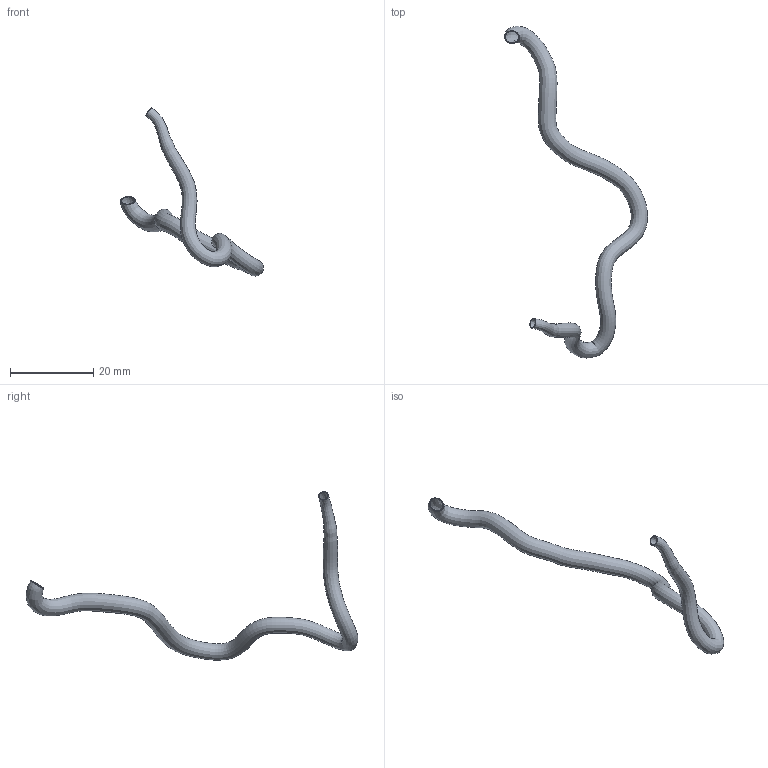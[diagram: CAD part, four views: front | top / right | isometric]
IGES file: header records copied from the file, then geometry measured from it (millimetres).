
Global section: file name: C:\Documents and Settings\Administrator\Desktop\FDA Bifurcation win\RawData_for_IGES\HRCA_Data\19990218.103146\IGES\19990218.103146.RCA.SEG.ES.igs; native system: Rhinoceros ( May 19 2006 ); preprocessor: Trout Lake IGES 012 May 19 2006; date: 100728.194804; units: centimetre
Bounding box: 34.32 x 79.59 x 40.36 mm (x, y, z)
Surface area: 3269.8 mm2 (no closed solid volume)
Topology: 0 solids, 0 shells, 4 faces, 12 edges, 8 vertices
Faces by surface type: bspline 4
